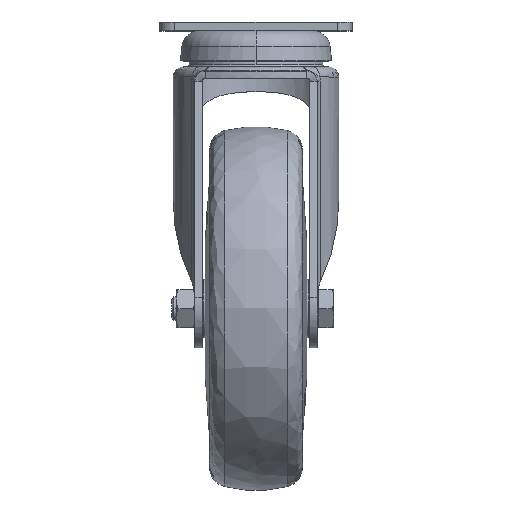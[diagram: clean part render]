
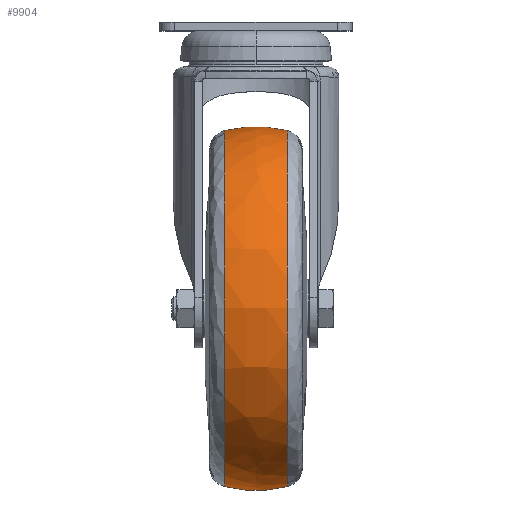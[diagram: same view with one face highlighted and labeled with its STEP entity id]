
A CAD part, top view. The second image highlights one B-rep face of the part: STEP entity #9904.
In plain terms, the highlighted free-form (B-spline) face has degree [3, 3] with [4, 4] control points.
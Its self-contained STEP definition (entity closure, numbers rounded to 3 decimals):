
#689 = CARTESIAN_POINT ( 'NONE',  ( 10.658, -98.5, 40. ) ) ;
#1763 = CARTESIAN_POINT ( 'NONE',  ( -10.658, -37.28, 162.439 ) ) ;
#1931 = CARTESIAN_POINT ( 'NONE',  ( 10.658, -37.28, 40. ) ) ;
#2901 = CARTESIAN_POINT ( 'NONE',  ( 0., -116., 40. ) ) ;
#3261 = EDGE_CURVE ( 'NONE', #13994, #19077, #15533, .T. ) ;
#4418 = CIRCLE ( 'NONE', #5356, 45. ) ;
#4698 = DIRECTION ( 'NONE',  ( 0., -1., 0. ) ) ;
#5356 = AXIS2_PLACEMENT_3D ( 'NONE', #44070, #19970, #48154 ) ;
#5796 = CARTESIAN_POINT ( 'NONE',  ( -3.621, -161.435, 40. ) ) ;
#6944 = DIRECTION ( 'NONE',  ( 0., -1., 0. ) ) ;
#8481 = CARTESIAN_POINT ( 'NONE',  ( -10.658, -159.72, 40. ) ) ;
#9883 = CARTESIAN_POINT ( 'NONE',  ( -3.621, -35.565, 165.87 ) ) ;
#9904 = ADVANCED_FACE ( 'NONE', ( #34418 ), #12181, .T. ) ;
#10863 = CIRCLE ( 'NONE', #25942, 61.22 ) ;
#12181 =( BOUNDED_SURFACE ( )  B_SPLINE_SURFACE ( 3, 3, ( 
 ( #21951, #26037, #1763, #30066 ),
 ( #5796, #34094, #9883, #38132 ),
 ( #13981, #42206, #18059, #46238 ),
 ( #22128, #50324, #26204, #1931 ) ),
 .UNSPECIFIED., .F., .F., .F. ) 
 B_SPLINE_SURFACE_WITH_KNOTS ( ( 4, 4 ),
 ( 4, 4 ),
 ( 0., 1. ),
 ( 0., 1. ),
 .UNSPECIFIED. ) 
 GEOMETRIC_REPRESENTATION_ITEM ( )  RATIONAL_B_SPLINE_SURFACE ( (
 ( 1., 0.333, 0.333, 1.),
 ( 0.981, 0.327, 0.327, 0.981),
 ( 0.981, 0.327, 0.327, 0.981),
 ( 1., 0.333, 0.333, 1.) ) ) 
 REPRESENTATION_ITEM ( '' )  SURFACE ( )  );
#13981 = CARTESIAN_POINT ( 'NONE',  ( 3.621, -161.435, 40. ) ) ;
#13994 = VERTEX_POINT ( 'NONE', #8481 ) ;
#15082 = AXIS2_PLACEMENT_3D ( 'NONE', #2901, #31194, #6944 ) ;
#15533 = CIRCLE ( 'NONE', #15082, 45. ) ;
#15556 = EDGE_CURVE ( 'NONE', #31068, #13994, #10863, .T. ) ;
#18059 = CARTESIAN_POINT ( 'NONE',  ( 3.621, -35.565, 165.87 ) ) ;
#18494 = CARTESIAN_POINT ( 'NONE',  ( 10.658, -159.72, 40. ) ) ;
#19077 = VERTEX_POINT ( 'NONE', #18494 ) ;
#19970 = DIRECTION ( 'NONE',  ( 0., 0., -1. ) ) ;
#21865 = ORIENTED_EDGE ( 'NONE', *, *, #47204, .T. ) ;
#21878 = EDGE_LOOP ( 'NONE', ( #45813, #43763, #27933, #21865 ) ) ;
#21951 = CARTESIAN_POINT ( 'NONE',  ( -10.658, -159.72, 40. ) ) ;
#22048 = CARTESIAN_POINT ( 'NONE',  ( -10.658, -98.5, 40. ) ) ;
#22128 = CARTESIAN_POINT ( 'NONE',  ( 10.658, -159.72, 40. ) ) ;
#23888 = VERTEX_POINT ( 'NONE', #50278 ) ;
#25942 = AXIS2_PLACEMENT_3D ( 'NONE', #22048, #50242, #26125 ) ;
#26037 = CARTESIAN_POINT ( 'NONE',  ( -10.658, -159.72, 162.439 ) ) ;
#26125 = DIRECTION ( 'NONE',  ( 0., -1., 0. ) ) ;
#26204 = CARTESIAN_POINT ( 'NONE',  ( 10.658, -37.28, 162.439 ) ) ;
#27933 = ORIENTED_EDGE ( 'NONE', *, *, #3261, .T. ) ;
#28401 = EDGE_CURVE ( 'NONE', #31068, #23888, #4418, .T. ) ;
#29005 = DIRECTION ( 'NONE',  ( -1., 0., 0. ) ) ;
#30066 = CARTESIAN_POINT ( 'NONE',  ( -10.658, -37.28, 40. ) ) ;
#31068 = VERTEX_POINT ( 'NONE', #40700 ) ;
#31194 = DIRECTION ( 'NONE',  ( 0., 0., 1. ) ) ;
#34094 = CARTESIAN_POINT ( 'NONE',  ( -3.621, -161.435, 165.87 ) ) ;
#34418 = FACE_OUTER_BOUND ( 'NONE', #21878, .T. ) ;
#36202 = AXIS2_PLACEMENT_3D ( 'NONE', #689, #29005, #4698 ) ;
#37589 = CIRCLE ( 'NONE', #36202, 61.22 ) ;
#38132 = CARTESIAN_POINT ( 'NONE',  ( -3.621, -35.565, 40. ) ) ;
#40700 = CARTESIAN_POINT ( 'NONE',  ( -10.658, -37.28, 40. ) ) ;
#42206 = CARTESIAN_POINT ( 'NONE',  ( 3.621, -161.435, 165.87 ) ) ;
#43763 = ORIENTED_EDGE ( 'NONE', *, *, #15556, .T. ) ;
#44070 = CARTESIAN_POINT ( 'NONE',  ( 0., -81., 40. ) ) ;
#45813 = ORIENTED_EDGE ( 'NONE', *, *, #28401, .F. ) ;
#46238 = CARTESIAN_POINT ( 'NONE',  ( 3.621, -35.565, 40. ) ) ;
#47204 = EDGE_CURVE ( 'NONE', #19077, #23888, #37589, .T. ) ;
#48154 = DIRECTION ( 'NONE',  ( 0., 1., 0. ) ) ;
#50242 = DIRECTION ( 'NONE',  ( 1., 0., 0. ) ) ;
#50278 = CARTESIAN_POINT ( 'NONE',  ( 10.658, -37.28, 40. ) ) ;
#50324 = CARTESIAN_POINT ( 'NONE',  ( 10.658, -159.72, 162.439 ) ) ;
